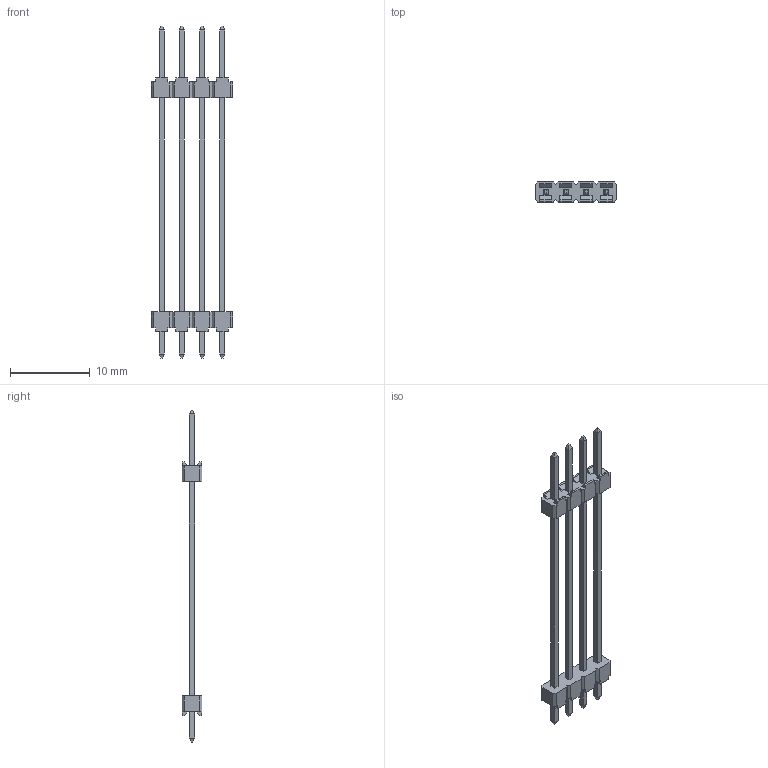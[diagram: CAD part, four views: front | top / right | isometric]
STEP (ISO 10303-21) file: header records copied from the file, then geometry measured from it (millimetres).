
FILE_DESCRIPTION(/* description */ (''),/* implementation_level */ '2;1');
FILE_NAME(/* name */ '961404-9041604-XX',/* time_stamp */ '2007-06-14T17:29:36+02:00',/* author */ (''),/* organization */ (''),/* preprocessor_version */ 'ST-DEVELOPER v9',/* originating_system */ 'UGS - NX 3.0',/* authorisation */ '');
FILE_SCHEMA (('AUTOMOTIVE_DESIGN { 1 0 10303 214 1 1 1 1 }'));
Length unit declared in the file: millimetre
Products named in the file (1): 961404-9041604-XX
Bounding box: 10.16 x 2.5 x 41.6 mm (x, y, z)
Volume: 164.4 mm3; surface area: 601.2 mm2
Topology: 1 solids, 1 shells, 228 faces, 616 edges, 400 vertices
Faces by surface type: plane 228
Entity records: 7000 total; most frequent: CARTESIAN_POINT 1245, ORIENTED_EDGE 1232, DIRECTION 1074, EDGE_CURVE 616, LINE 616, VECTOR 616, VERTEX_POINT 400, EDGE_LOOP 244
